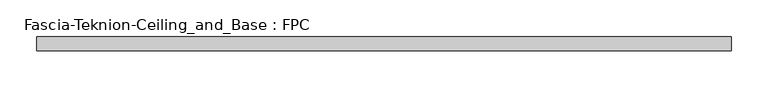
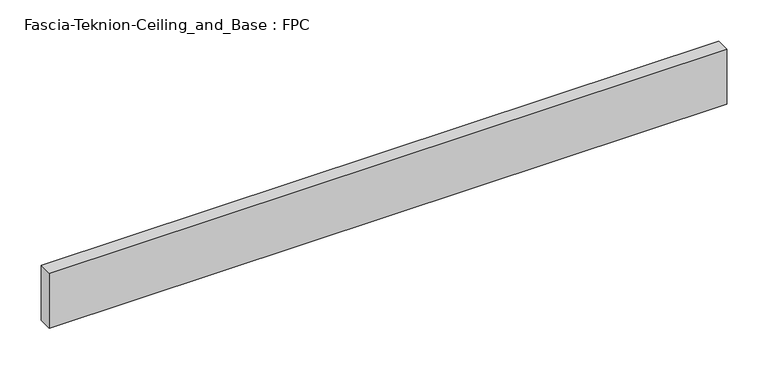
"""IFC4 building model written with IfcOpenShell, lengths in millimetres: proxy geometry, Fascia-Teknion-Ceiling_and_Base : FPC."""

from ifc_helpers import new_model, si_unit, origin, origin_with_axes, place, context, project, spatial, polyline, outline, extrude, source, transform, mapped, element, save


def fascia_teknion_ceiling_and_base_fpc_aab47f0c(model_context):
    return source(origin(), model_context, "Body", "SweptSolid", [
        extrude(outline(polyline([(472.4356344, 0.0), (472.4356344, -19.05), (-472.4356344, -19.05), (-472.4356344, 0.0), (472.4356344, 0.0)])), origin_with_axes(), (0.0, 0.0, 1.0), 81.28),
    ])


if __name__ == "__main__":
    model = new_model("IFC4")
    model_context = context("Model", 3, world=origin())
    ifc_project = project(units=[si_unit("LENGTHUNIT", "METRE", prefix="MILLI")], contexts=[model_context])
    site = spatial("IfcSite", under=ifc_project)
    building = spatial("IfcBuilding", under=site)
    placement = place(None, origin())
    fascia_teknion_ceiling_and_base_fpc_shape = fascia_teknion_ceiling_and_base_fpc_aab47f0c(model_context)
    element("IfcBuildingElementProxy", 1, Name="Fascia-Teknion-Ceiling_and_Base : FPC", ObjectType="Fascia-Teknion-Ceiling_and_Base : FPC", at=placement, inside=building, context=model_context, shape_type="MappedRepresentation", body=[
        mapped(fascia_teknion_ceiling_and_base_fpc_shape, transform((0.0, 0.0, 0.0), x_axis=(1.0, 0.0, 0.0), y_axis=(0.0, 1.0, 0.0), z_axis=(0.0, 0.0, 1.0))),
    ])
    save(model, "model.ifc")
